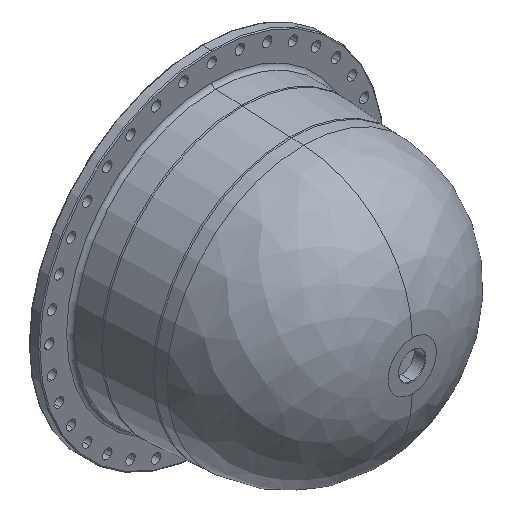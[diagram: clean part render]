
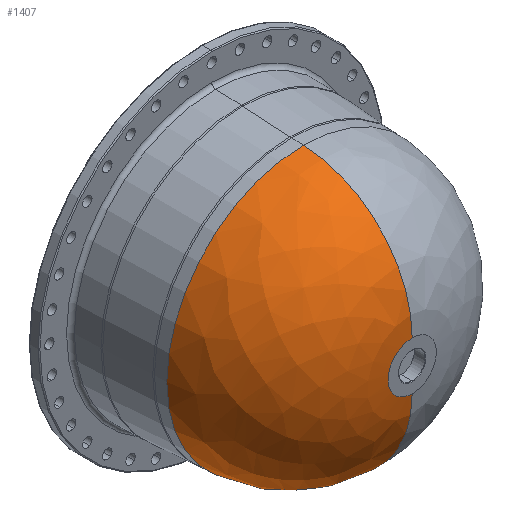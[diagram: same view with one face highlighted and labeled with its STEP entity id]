
A CAD part, isometric view. The second image highlights one B-rep face of the part: STEP entity #1407.
In plain terms, the highlighted face is a revolution surface.
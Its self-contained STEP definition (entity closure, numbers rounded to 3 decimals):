
#1319=CARTESIAN_POINT('Vertex',(0.,-446.6,-51.178)) ;
#1321=CARTESIAN_POINT('Vertex',(0.,-446.6,51.178)) ;
#1324=CARTESIAN_POINT('Axis2P3D Location',(0.,-446.6,0.)) ;
#1339=CARTESIAN_POINT('Control Point',(0.,25.047,0.)) ;
#1340=CARTESIAN_POINT('Control Point',(0.,29.619,20.822)) ;
#1341=CARTESIAN_POINT('Control Point',(0.,31.867,42.155)) ;
#1342=CARTESIAN_POINT('Control Point',(0.,31.712,63.653)) ;
#1343=CARTESIAN_POINT('Control Point',(0.,26.604,106.25)) ;
#1344=CARTESIAN_POINT('Control Point',(0.,12.224,146.67)) ;
#1345=CARTESIAN_POINT('Control Point',(0.,2.797,165.991)) ;
#1346=CARTESIAN_POINT('Control Point',(0.,-20.213,202.201)) ;
#1347=CARTESIAN_POINT('Control Point',(0.,-50.645,232.442)) ;
#1348=CARTESIAN_POINT('Control Point',(0.,-67.494,245.794)) ;
#1349=CARTESIAN_POINT('Control Point',(0.,-103.889,268.509)) ;
#1350=CARTESIAN_POINT('Control Point',(0.,-144.399,282.635)) ;
#1351=CARTESIAN_POINT('Control Point',(0.,-165.363,287.397)) ;
#1352=CARTESIAN_POINT('Control Point',(0.,-208.,292.159)) ;
#1353=CARTESIAN_POINT('Control Point',(0.,-250.637,287.397)) ;
#1354=CARTESIAN_POINT('Control Point',(0.,-271.601,282.635)) ;
#1355=CARTESIAN_POINT('Control Point',(0.,-312.111,268.509)) ;
#1356=CARTESIAN_POINT('Control Point',(0.,-348.506,245.794)) ;
#1357=CARTESIAN_POINT('Control Point',(0.,-365.355,232.442)) ;
#1358=CARTESIAN_POINT('Control Point',(0.,-395.787,202.201)) ;
#1359=CARTESIAN_POINT('Control Point',(0.,-418.797,165.991)) ;
#1360=CARTESIAN_POINT('Control Point',(0.,-428.224,146.67)) ;
#1361=CARTESIAN_POINT('Control Point',(0.,-442.604,106.25)) ;
#1362=CARTESIAN_POINT('Control Point',(0.,-447.712,63.653)) ;
#1363=CARTESIAN_POINT('Control Point',(0.,-447.867,42.155)) ;
#1364=CARTESIAN_POINT('Control Point',(0.,-445.619,20.822)) ;
#1365=CARTESIAN_POINT('Control Point',(0.,-441.047,0.)) ;
#1366=CARTESIAN_POINT('Axis1P Location',(0.,-208.,0.)) ;
#1370=CARTESIAN_POINT('Axis2P3D Location',(0.,-208.,51.178)) ;
#1374=CARTESIAN_POINT('Vertex',(0.,-216.327,289.633)) ;
#1377=CARTESIAN_POINT('Axis2P3D Location',(0.,-208.,-51.178)) ;
#1381=CARTESIAN_POINT('Vertex',(0.,-216.327,-289.633)) ;
#1396=CARTESIAN_POINT('Axis2P3D Location',(0.,-216.327,0.)) ;
#1325=DIRECTION('Axis2P3D Direction',(0.,-1.,0.)) ;
#1367=DIRECTION('Axis1P Direction',(-0.,1.,-0.)) ;
#1371=DIRECTION('Axis2P3D Direction',(1.,0.,0.)) ;
#1378=DIRECTION('Axis2P3D Direction',(-1.,0.,0.)) ;
#1397=DIRECTION('Axis2P3D Direction',(0.,-1.,0.)) ;
#1326=AXIS2_PLACEMENT_3D('Circle Axis2P3D',#1324,#1325,$) ;
#1372=AXIS2_PLACEMENT_3D('Circle Axis2P3D',#1370,#1371,$) ;
#1379=AXIS2_PLACEMENT_3D('Circle Axis2P3D',#1377,#1378,$) ;
#1398=AXIS2_PLACEMENT_3D('Circle Axis2P3D',#1396,#1397,$) ;
#1402=ORIENTED_EDGE('',*,*,#1383,.T.) ;
#1403=ORIENTED_EDGE('',*,*,#1328,.F.) ;
#1404=ORIENTED_EDGE('',*,*,#1376,.F.) ;
#1405=ORIENTED_EDGE('',*,*,#1400,.T.) ;
#1407=ADVANCED_FACE('Corps de pi\X2\00E8\X0\ce.2',(#1406),#1369,.F.) ;
#1368=AXIS1_PLACEMENT('Revolution Surface Axis1P',#1366,#1367) ;
#1338=B_SPLINE_CURVE_WITH_KNOTS('',5,(#1339,#1340,#1341,#1342,#1343,#1344,#1345,#1346,#1347,#1348,#1349,#1350,#1351,#1352,#1353,#1354,#1355,#1356,#1357,#1358,#1359,#1360,#1361,#1362,#1363,#1364,#1365),.UNSPECIFIED.,.F.,.U.,(6,3,3,3,3,3,3,3,6),(-426.371,-319.778,-213.185,-106.593,0.,106.593,213.185,319.778,426.371),.UNSPECIFIED.) ;
#1327=CIRCLE('generated circle',#1326,51.178) ;
#1373=CIRCLE('generated circle',#1372,238.6) ;
#1380=CIRCLE('generated circle',#1379,238.6) ;
#1399=CIRCLE('generated circle',#1398,289.633) ;
#1328=EDGE_CURVE('',#1322,#1320,#1327,.T.) ;
#1376=EDGE_CURVE('',#1375,#1322,#1373,.T.) ;
#1383=EDGE_CURVE('',#1382,#1320,#1380,.T.) ;
#1400=EDGE_CURVE('',#1375,#1382,#1399,.T.) ;
#1401=EDGE_LOOP('',(#1402,#1403,#1404,#1405)) ;
#1406=FACE_OUTER_BOUND('',#1401,.T.) ;
#1369=SURFACE_OF_REVOLUTION('homeo Torus',#1338,#1368) ;
#1320=VERTEX_POINT('',#1319) ;
#1322=VERTEX_POINT('',#1321) ;
#1375=VERTEX_POINT('',#1374) ;
#1382=VERTEX_POINT('',#1381) ;
